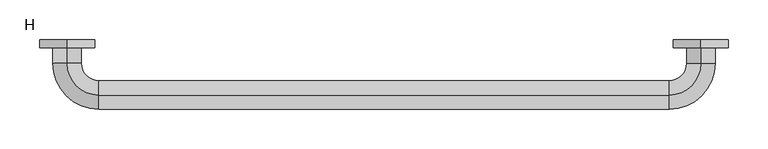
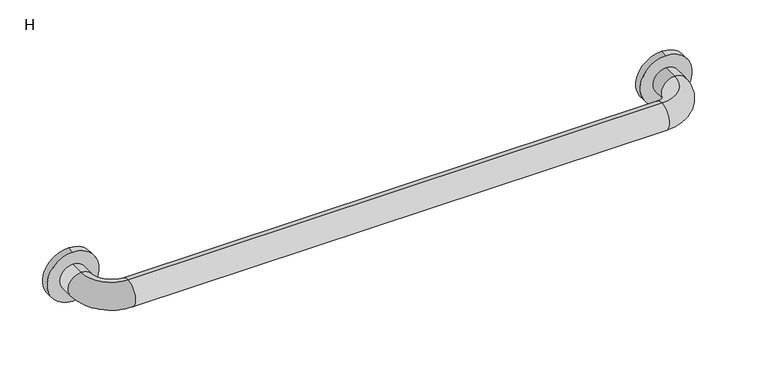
"""IFC4 building model written with IfcOpenShell, lengths in millimetres: flow terminal geometry, Barre d'appui - Horizontale.0001 : H."""

from ifc_helpers import new_model, si_unit, point, frame, frame_2d, origin, place, context, project, spatial, circle_curve, ellipse_curve, trimmed, segment, composite_curve, outline, extrude, source, transform, mapped, element, save
from ifc_brep_helpers import plane_surface, cylinder_surface, revolved_surface, advanced_brep


def h_bb77d2ff(model_context):
    return source(origin(), model_context, "Body", "SolidModel", [
        extrude(outline(composite_curve([segment(trimmed(circle_curve(frame_2d((680.0, -455.7956665)), 35.0), [point((645.0, -455.7956665))], [point((715.0, -455.7956665))], False, "CARTESIAN"), True, "CONTINUOUS"), segment(trimmed(circle_curve(frame_2d((680.0, -455.7956665)), 35.0), [point((715.0, -455.7956665))], [point((645.0, -455.7956665))], False, "CARTESIAN"), True, "CONTINUOUS")], self_intersect=False)), frame((0.0, -10.0, 0.0), z_axis=(0.0, 1.0, 0.0), x_axis=(0.0, 0.0, 1.0)), (0.0, 0.0, 1.0), 10.0),
        extrude(outline(composite_curve([segment(trimmed(circle_curve(frame_2d((680.0, -1255.7956665)), 35.0), [point((645.0, -1255.7956665))], [point((715.0, -1255.7956665))], False, "CARTESIAN"), True, "CONTINUOUS"), segment(trimmed(circle_curve(frame_2d((680.0, -1255.7956665)), 35.0), [point((715.0, -1255.7956665))], [point((645.0, -1255.7956665))], False, "CARTESIAN"), True, "CONTINUOUS")], self_intersect=False)), frame((0.0, -10.0, 0.0), z_axis=(0.0, 1.0, 0.0), x_axis=(0.0, 0.0, 1.0)), (0.0, 0.0, 1.0), 10.0),
        advanced_brep(
        [(-455.7956665, -10.0, 698.0), (-455.7956665, -10.0, 662.0), (-455.7956665, -30.0, 662.0), (-455.7956665, -30.0, 698.0), (-495.7956665, -70.0, 662.0), (-495.7956665, -70.0, 698.0), (-1215.7956665, -70.0, 662.0), (-1215.7956665, -70.0, 698.0), (-1255.7956665, -30.0, 662.0), (-1255.7956665, -30.0, 698.0), (-1255.7956665, -10.0, 698.0), (-1255.7956665, -10.0, 662.0)],
        [
            (0, 1, circle_curve(frame((-455.7956665, -10.0, 680.0), z_axis=(0.0, 1.0, 0.0), x_axis=(0.0, 0.0, -1.0)), 18.0)),
            (1, 0, circle_curve(frame((-455.7956665, -10.0, 680.0), z_axis=(0.0, 1.0, 0.0), x_axis=(0.0, 0.0, -1.0)), 18.0)),
            (1, 2),
            (2, 3, circle_curve(frame((-455.7956665, -30.0, 680.0), z_axis=(0.0, 1.0, 0.0), x_axis=(0.0, 0.0, -1.0)), 18.0)),
            (3, 0),
            (3, 2, circle_curve(frame((-455.7956665, -30.0, 680.0), z_axis=(0.0, 1.0, 0.0), x_axis=(0.0, 0.0, -1.0)), 18.0)),
            (4, 5, circle_curve(frame((-495.7956665, -70.0, 680.0), z_axis=(1.0, 0.0, 0.0), x_axis=(0.0, 0.0, -1.0)), 18.0)),
            (5, 3, circle_curve(frame((-495.7956665, -30.0, 698.0), z_axis=(0.0, 0.0, 1.0), x_axis=(1.0, 0.0, 0.0)), 40.0)),
            (2, 4, circle_curve(frame((-495.7956665, -30.0, 662.0), z_axis=(0.0, 0.0, -1.0), x_axis=(1.0, 0.0, 0.0)), 40.0)),
            (5, 4, circle_curve(frame((-495.7956665, -70.0, 680.0), z_axis=(1.0, 0.0, 0.0), x_axis=(0.0, 0.0, -1.0)), 18.0)),
            (4, 6),
            (6, 7, circle_curve(frame((-1215.7956665, -70.0, 680.0), z_axis=(1.0, 0.0, 0.0), x_axis=(0.0, 0.0, -1.0)), 18.0)),
            (7, 5),
            (7, 6, circle_curve(frame((-1215.7956665, -70.0, 680.0), z_axis=(1.0, 0.0, 0.0), x_axis=(0.0, 0.0, -1.0)), 18.0)),
            (8, 9, circle_curve(frame((-1255.7956665, -30.0, 680.0), z_axis=(0.0, -1.0, 0.0), x_axis=(0.0, 0.0, -1.0)), 18.0)),
            (9, 7, circle_curve(frame((-1215.7956665, -30.0, 698.0), z_axis=(0.0, 0.0, 1.0), x_axis=(0.0, -1.0, 0.0)), 40.0)),
            (6, 8, circle_curve(frame((-1215.7956665, -30.0, 662.0), z_axis=(0.0, 0.0, -1.0), x_axis=(0.0, -1.0, 0.0)), 40.0)),
            (9, 8, circle_curve(frame((-1255.7956665, -30.0, 680.0), z_axis=(0.0, -1.0, 0.0), x_axis=(0.0, 0.0, -1.0)), 18.0)),
            (10, 11, circle_curve(frame((-1255.7956665, -10.0, 680.0), z_axis=(0.0, 1.0, 0.0), x_axis=(0.0, 0.0, -1.0)), 18.0)),
            (11, 10, circle_curve(frame((-1255.7956665, -10.0, 680.0), z_axis=(0.0, 1.0, 0.0), x_axis=(0.0, 0.0, -1.0)), 18.0)),
            (8, 11),
            (10, 9),
        ],
        [
            plane_surface(frame((-455.7956665, -10.0, 680.0), z_axis=(0.0, 1.0, 0.0), x_axis=(0.0, 0.0, 1.0))),
            cylinder_surface(frame((-455.7956665, -10.0, 680.0), z_axis=(0.0, 1.0, 0.0), x_axis=(0.0, 0.0, -1.0)), 18.0),
            revolved_surface(trimmed(ellipse_curve(frame((-455.7956665, -30.0, 680.0), z_axis=(0.0, -1.0, 0.0), x_axis=(0.0, 0.0, -1.0)), 18.0, 18.0), [point((-455.7956665, -30.0, 698.0))], [point((-455.7956665, -30.0, 662.0))], True, "CARTESIAN"), (-495.7956665, -30.0, 680.0), (0.0, 0.0, 1.0)),
            revolved_surface(trimmed(ellipse_curve(frame((-455.7956665, -30.0, 680.0), z_axis=(0.0, -1.0, 0.0), x_axis=(0.0, 0.0, -1.0)), 18.0, 18.0), [point((-455.7956665, -30.0, 662.0))], [point((-455.7956665, -30.0, 698.0))], True, "CARTESIAN"), (-495.7956665, -30.0, 680.0), (0.0, 0.0, 1.0)),
            cylinder_surface(frame((-495.7956665, -70.0, 680.0), z_axis=(1.0, 0.0, 0.0), x_axis=(0.0, 0.0, -1.0)), 18.0),
            revolved_surface(trimmed(ellipse_curve(frame((-1215.7956665, -70.0, 680.0), z_axis=(-1.0, 0.0, 0.0), x_axis=(0.0, 0.0, -1.0)), 18.0, 18.0), [point((-1215.7956665, -70.0, 698.0))], [point((-1215.7956665, -70.0, 662.0))], True, "CARTESIAN"), (-1215.7956665, -30.0, 680.0), (0.0, 0.0, 1.0)),
            revolved_surface(trimmed(ellipse_curve(frame((-1215.7956665, -70.0, 680.0), z_axis=(-1.0, 0.0, 0.0), x_axis=(0.0, 0.0, -1.0)), 18.0, 18.0), [point((-1215.7956665, -70.0, 662.0))], [point((-1215.7956665, -70.0, 698.0))], True, "CARTESIAN"), (-1215.7956665, -30.0, 680.0), (0.0, 0.0, 1.0)),
            plane_surface(frame((-1255.7956665, -10.0, 680.0), z_axis=(0.0, 1.0, 0.0), x_axis=(0.0, 0.0, 1.0))),
            cylinder_surface(frame((-1255.7956665, -30.0, 680.0), z_axis=(0.0, -1.0, 0.0), x_axis=(0.0, 0.0, -1.0)), 18.0),
        ],
        [
            (0, [[1, 2]]),
            (1, [[3, 4, 5, -2]]),
            (1, [[-5, 6, -3, -1]]),
            (2, [[7, 8, -4, 9]]),
            (3, [[10, -9, -6, -8]]),
            (4, [[11, 12, 13, -7]]),
            (4, [[-13, 14, -11, -10]]),
            (5, [[15, 16, -12, 17]]),
            (6, [[18, -17, -14, -16]]),
            (7, [[19, 20]]),
            (8, [[21, -19, 22, -15]]),
            (8, [[-22, -20, -21, -18]]),
        ],
    ),
    ])


if __name__ == "__main__":
    model = new_model("IFC4")
    model_context = context("Model", 3, world=origin())
    ifc_project = project(units=[si_unit("LENGTHUNIT", "METRE", prefix="MILLI")], contexts=[model_context])
    site = spatial("IfcSite", under=ifc_project)
    building = spatial("IfcBuilding", under=site)
    placement = place(None, origin())
    h_shape = h_bb77d2ff(model_context)
    element("IfcFlowTerminal", 1, ObjectType="Barre d'appui - Horizontale.0001 : H", at=placement, inside=building, context=model_context, shape_type="MappedRepresentation", body=[
        mapped(h_shape, transform((0.0, 0.0, 0.0), x_axis=(1.0, 0.0, 0.0), y_axis=(0.0, 1.0, 0.0), z_axis=(0.0, 0.0, 1.0))),
    ])
    save(model, "model.ifc")
